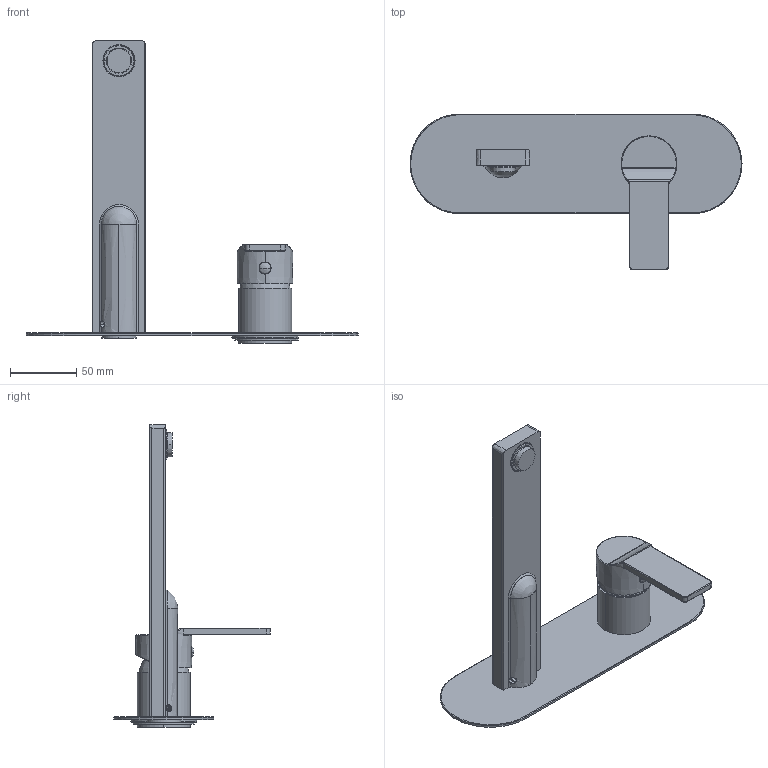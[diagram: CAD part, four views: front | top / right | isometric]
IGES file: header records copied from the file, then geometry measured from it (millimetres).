
Start section:  PTC IGES file: r3d_sw0001.igs
Global section: file name: r3d_sw0001.igs; native system: Creo Parametric by PTC Inc.; preprocessor: 2022014; author: volponeff; organization: Unknown; date: 20240314.140501; units: millimetre
Bounding box: 250 x 117.5 x 227.7 mm (x, y, z)
Surface area: 111941.6 mm2 (no closed solid volume)
Topology: 0 solids, 0 shells, 1091 faces, 6315 edges, 6306 vertices
Faces by surface type: revolution 680, bspline 411
